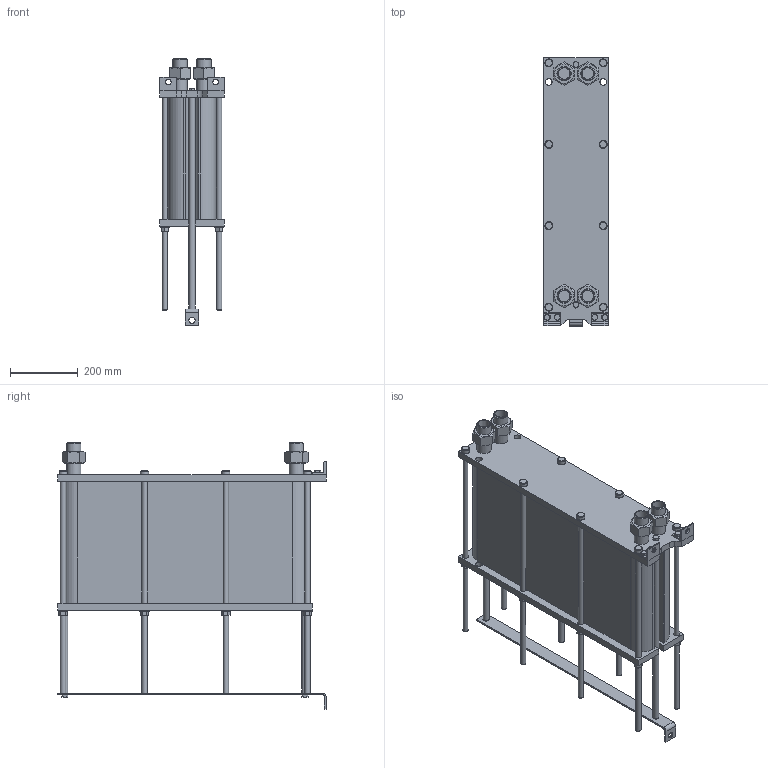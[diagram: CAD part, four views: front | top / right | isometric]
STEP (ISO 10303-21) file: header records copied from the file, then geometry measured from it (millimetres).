
FILE_DESCRIPTION(/* description */ (''),/* implementation_level */ '2;1');
FILE_NAME(/* name */ 'C:\Users\zhuro\Desktop\ENCO\TO\ЭН-008\ЭН-0,5-008-116-1.stp',/* time_stamp */ '2022-06-06T10:56:26+03:00',/* author */ ('zhuro'),/* organization */ (''),/* preprocessor_version */ 'ST-DEVELOPER v18.1',/* originating_system */ 'Autodesk Inventor 2022',/* authorisation */ '');
FILE_SCHEMA (('AUTOMOTIVE_DESIGN { 1 0 10303 214 3 1 1 }'));
Length unit declared in the file: millimetre
Products named in the file (1): ЭН-0,5-008-116-1
Bounding box: 190 x 790 x 785.8 mm (x, y, z)
Volume: 43694595.5 mm3; surface area: 2156866.1 mm2
Topology: 40 solids, 40 shells, 428 faces, 924 edges, 606 vertices
Faces by surface type: plane 273, cylinder 109, cone 40, torus 6
Full cylindrical faces by diameter (mm): 12 x6, 14 x2, 16 x20, 17 x8, 18 x19, 20 x5, 24 x8, 28 x8, 34.3 x8, 42.3 x8
Entity records: 15843 total; most frequent: CARTESIAN_POINT 5991, DIRECTION 1984, ORIENTED_EDGE 1848, EDGE_CURVE 924, AXIS2_PLACEMENT_3D 715, VERTEX_POINT 606, LINE 554, VECTOR 554
